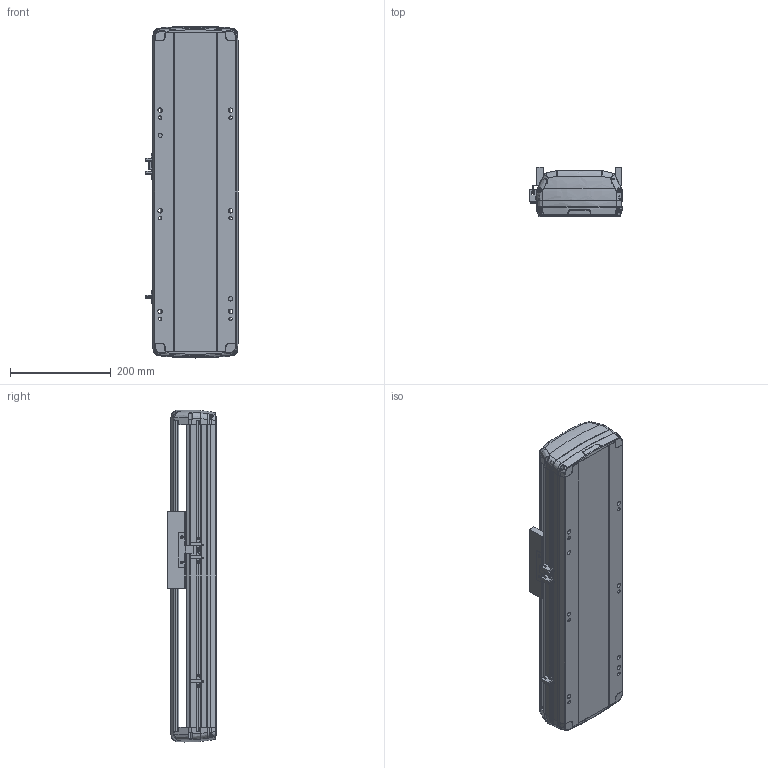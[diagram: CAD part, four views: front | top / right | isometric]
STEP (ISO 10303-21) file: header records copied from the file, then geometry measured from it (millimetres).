
FILE_DESCRIPTION (( 'STEP AP214' ), '1' );
FILE_NAME ('RTH17-XX-250-B-M40-C4.STEP', '2025-10-24T08:30:36', ( '' ), ( '' ), 'SwSTEP 2.0', 'SolidWorks 2018', '' );
FILE_SCHEMA (( 'AUTOMOTIVE_DESIGN' ));
Length unit declared in the file: millimetre
Products named in the file (7): N_RTH17-M-007上盖^RTH17-XX-XX-B-M40-C4（方程式）; N_RTH17-M-011底座^RTH17-XX-XX-B-M40-C4（方程式）; RTH17-XX-250-B-M40-C4; N_RTH17-GY-001P^RTH17-XX-XX-B-M40-C4（方程式）; N_RTH-L-012 感应片(外置)^RTH17-XX-XX-B-M40-C4（方程式）; N_RTH17-E-004丝杆螺母连接座^RTH17-XX-XX-B-M40-C4（方程式）; N_OMRON EE-SX672 換覜ん^RTH17-XX-XX-B-M40-C4ㄗ源最宒ㄘ
Assembly tree (9 placements, depth 2):
  RTH17-XX-250-B-M40-C4
    N_RTH17-M-011底座^RTH17-XX-XX-B-M40-C4（方程式）
    N_RTH17-M-007上盖^RTH17-XX-XX-B-M40-C4（方程式）
    N_OMRON EE-SX672 換覜ん^RTH17-XX-XX-B-M40-C4ㄗ源最宒ㄘ  x3
    N_RTH-L-012 感应片(外置)^RTH17-XX-XX-B-M40-C4（方程式）
    N_RTH17-E-004丝杆螺母连接座^RTH17-XX-XX-B-M40-C4（方程式）
    N_RTH17-GY-001P^RTH17-XX-XX-B-M40-C4（方程式）  x2
Bounding box: 183.5 x 97 x 660.04 mm (x, y, z)
Volume: 5067362.2 mm3; surface area: 755187.9 mm2
Topology: 7 solids, 11 shells, 1688 faces, 4718 edges, 3062 vertices
Faces by surface type: plane 805, bspline 420, cylinder 417, cone 28, torus 18
Entity records: 38742 total; most frequent: CARTESIAN_POINT 16281, ORIENTED_EDGE 4940, DIRECTION 3886, EDGE_CURVE 2474, VERTEX_POINT 1616, LINE 1382, VECTOR 1382, AXIS2_PLACEMENT_3D 1252
